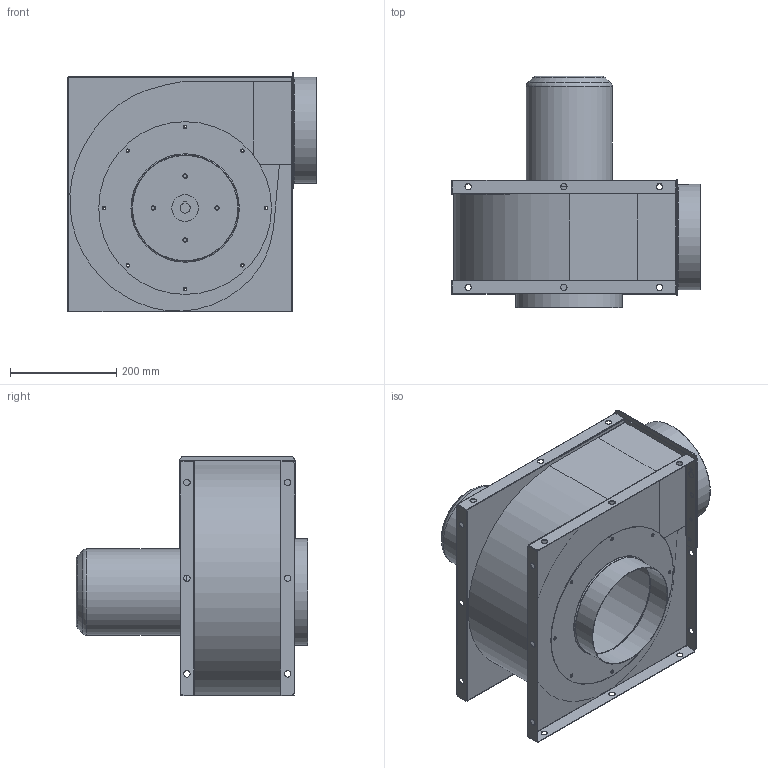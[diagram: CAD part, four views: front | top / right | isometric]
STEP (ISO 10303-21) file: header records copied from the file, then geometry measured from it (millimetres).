
FILE_DESCRIPTION(/* description */ ('Unknown'),/* implementation_level */ '2;1');
FILE_NAME(/* name */ 'CYST285A2P3-EG-V88 型錄',/* time_stamp */ '2026-06-06T10:26:22+08:00',/* author */ ('Unknown'),/* organization */ ('Unknown'),/* preprocessor_version */ 'ST-DEVELOPER v20',/* originating_system */ 'Solid Edge',/* authorisation */ 'Unknown');
FILE_SCHEMA (('AUTOMOTIVE_DESIGN {1 0 10303 214 3 1 1}'));
Length unit declared in the file: millimetre
Products named in the file (9): CYST285A2P3-EG-V88 型; CYST285-01; CYST285##01a; CYST285##03; CYST285##01b; CYST285-06V; CYST285-05-8; JM1802PV-EG & JM1802P3V-EG 尺寸; CYT285-04-8''
Assembly tree (7 placements, depth 3):
  CYST285A2P3-EG-V88 型
    CYST285-01
      CYST285##01a
      CYST285##03
      CYST285##01b
    CYST285-06V
    CYST285-05-8
    JM1802PV-EG & JM1802P3V-EG 尺寸
  CYT285-04-8''
Bounding box: 468.2 x 435.1 x 450.7 mm (x, y, z)
Volume: 16107985.5 mm3; surface area: 1805055.4 mm2
Topology: 7 solids, 7 shells, 262 faces, 671 edges, 431 vertices
Faces by surface type: plane 128, cylinder 127, torus 5, bspline 1, cone 1
Full cylindrical faces by diameter (mm): 5 x8, 6.4 x4, 6.5 x28, 7 x8, 7.2 x8, 8.2 x4, 9 x2, 12 x24, 50 x1, 143.5 x1, 162 x1, 197 x1, 198 x1, 199 x1, 200 x1, 290 x3, 325 x1, 330 x1
Entity records: 7993 total; most frequent: DIRECTION 1358, CARTESIAN_POINT 1340, ORIENTED_EDGE 1106, EDGE_CURVE 553, EDGE_LOOP 550, FACE_BOUND 550, AXIS2_PLACEMENT_3D 537, VERTEX_POINT 417
